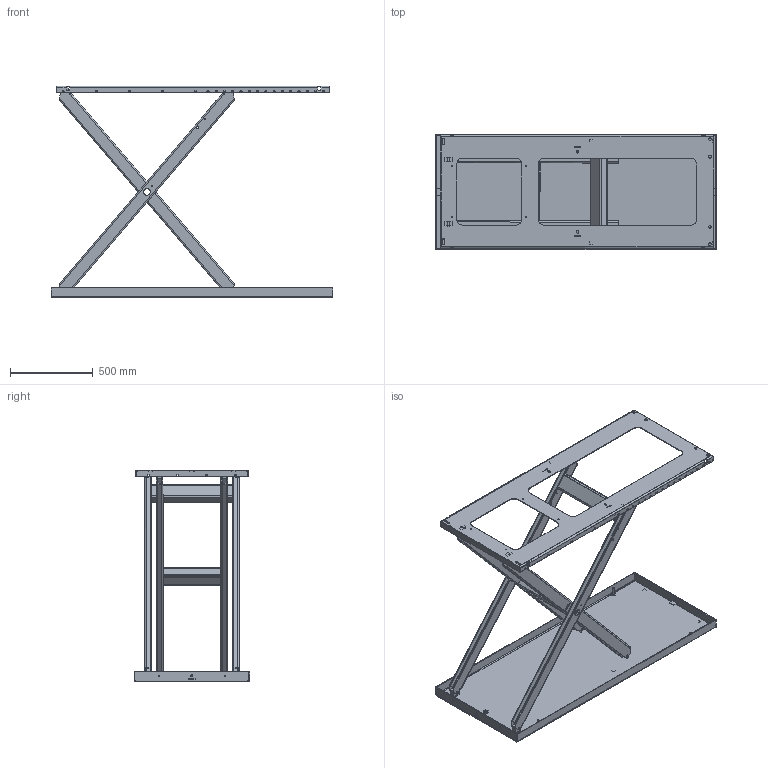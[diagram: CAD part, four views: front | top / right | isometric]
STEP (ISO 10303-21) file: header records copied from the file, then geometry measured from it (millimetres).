
FILE_DESCRIPTION(/* description */ ('TM 1000 (1700x700)'),/* implementation_level */ '2;1');
FILE_NAME(/* name */ '\\EDMOFILE01\Users$\JOHSO\Desktop\32970_Elevated.stp',/* time_stamp */ '2017-02-01T10:22:15+01:00',/* author */ ('ROBBE'),/* organization */ (''),/* preprocessor_version */ 'ST-DEVELOPER v16.5',/* originating_system */ 'Autodesk Inventor 2017',/* authorisation */ '');
FILE_SCHEMA (('AUTOMOTIVE_DESIGN { 1 0 10303 214 3 1 1 }'));
Length unit declared in the file: millimetre
Products named in the file (23): 32970.tmp; 609060; 609059; 44681; 609074; 513359; 513362-1; 513362-2; 513362-2_1; 45258; 83212; 44812; 44812_1; 85955; 42513; 70015; 612231; 32974C; 35331-2; 82154 - 490; 32973C; 35331-1; 82149 - 350
Assembly tree (32 placements, depth 4):
  32970.tmp
    609060
      609059
      45258  x2
      44681  x2
      609074
    513359
      513362-1
      513362-2
      513362-2_1
      45258  x2
      83212  x4
      44812
      44812_1
      85955
    42513  x2
    70015
    612231
      32974C
        35331-2  x2
        82154 - 490
      32973C
        35331-1  x2
        82149 - 350
Bounding box: 1700.35 x 700.85 x 1280 mm (x, y, z)
Volume: 17620679.9 mm3; surface area: 7614746.4 mm2
Topology: 27 solids, 27 shells, 1192 faces, 3315 edges, 2182 vertices
Faces by surface type: plane 597, cylinder 532, cone 57, torus 6
Full cylindrical faces by diameter (mm): 6.8 x4, 7.4 x8, 8 x4, 10 x4, 10.2 x20, 11 x2, 11.63 x4, 12.5 x2, 13.835 x5, 16 x2, 18.8 x2, 19 x1, 20 x1, 20.1 x4, 25 x1, 40 x4, 60 x4
Entity records: 32421 total; most frequent: CARTESIAN_POINT 5841, DIRECTION 5588, ORIENTED_EDGE 5300, EDGE_CURVE 2650, AXIS2_PLACEMENT_3D 1965, VERTEX_POINT 1778, LINE 1658, VECTOR 1658
